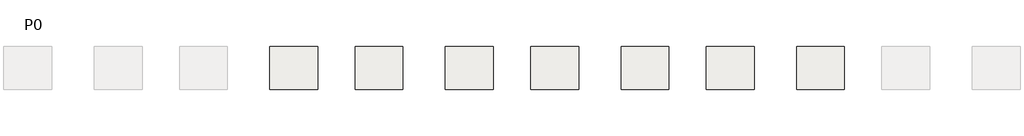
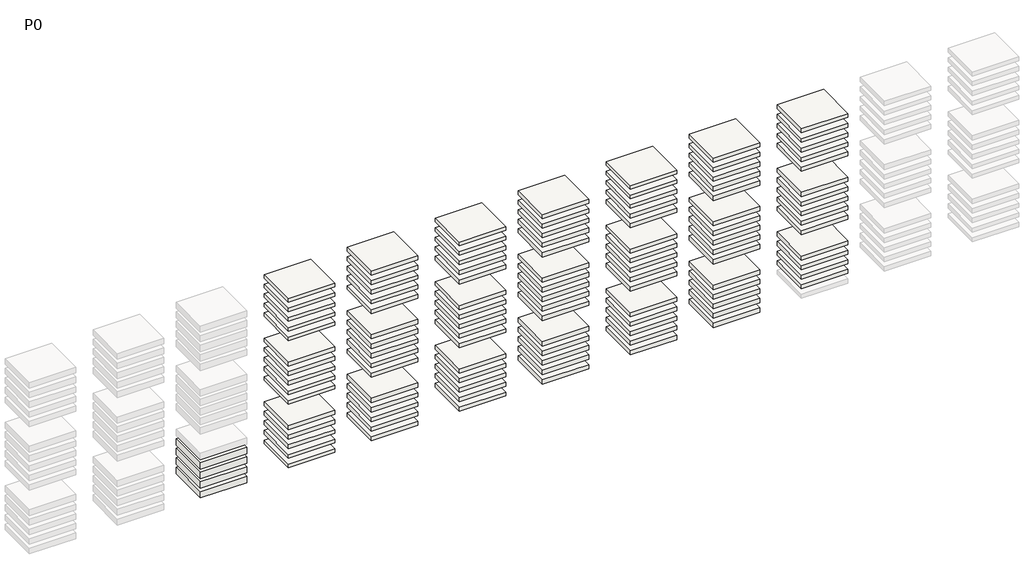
# One storey, part 3 of 11: 108 slabs.
"""IFC4 building model written with IfcOpenShell, lengths in millimetres."""

from ifc_helpers import new_model, si_unit, frame, origin, place, context, project, spatial, polyline, outline, extrude, element, save

model = new_model("IFC4")

# Units and contexts
model_context = context("Model", 3, world=origin())
ifc_project = project(units=[si_unit("LENGTHUNIT", "METRE", prefix="MILLI")], contexts=[model_context])

# Site, building, storey
site = spatial("IfcSite", under=ifc_project)
building = spatial("IfcBuilding", under=site)
storey = spatial("IfcBuildingStorey", under=building, Name="P0", Elevation=0.0)

# Slabs
placement = place(None, origin())
element("IfcSlab", 1, ObjectType="NNEH28 H10", at=placement, inside=storey, context=model_context, shape_type="SweptSolid", body=[
    extrude(outline(polyline([(25850.1564071, 1686.0689128), (25850.1564071, -1013.9310872), (22850.1564071, -1013.9310872), (22850.1564071, 1686.0689128), (25850.1564071, 1686.0689128)])), frame((0.0, 0.0, -16851.5322371), z_axis=(0.0, 0.0, 1.0), x_axis=(1.0, 0.0, 0.0)), (0.0, 0.0, 1.0), 438.0),
])
element("IfcSlab", 2, ObjectType="NNEH28 H10", at=placement, inside=storey, context=model_context, shape_type="SweptSolid", body=[
    extrude(outline(polyline([(25850.1564071, 1686.0689128), (25850.1564071, -1013.9310872), (22850.1564071, -1013.9310872), (22850.1564071, 1686.0689128), (25850.1564071, 1686.0689128)])), frame((0.0, 0.0, -17501.5322371), z_axis=(0.0, 0.0, 1.0), x_axis=(1.0, 0.0, 0.0)), (0.0, 0.0, 1.0), 438.0),
])
element("IfcSlab", 3, ObjectType="NNEH28 H10", at=placement, inside=storey, context=model_context, shape_type="SweptSolid", body=[
    extrude(outline(polyline([(25850.1564071, 1686.0689128), (25850.1564071, -1013.9310872), (22850.1564071, -1013.9310872), (22850.1564071, 1686.0689128), (25850.1564071, 1686.0689128)])), frame((0.0, 0.0, -18151.5322371), z_axis=(0.0, 0.0, 1.0), x_axis=(1.0, 0.0, 0.0)), (0.0, 0.0, 1.0), 438.0),
])
element("IfcSlab", 4, ObjectType="NNEH28 H10", at=placement, inside=storey, context=model_context, shape_type="SweptSolid", body=[
    extrude(outline(polyline([(25850.1564071, 1686.0689128), (25850.1564071, -1013.9310872), (22850.1564071, -1013.9310872), (22850.1564071, 1686.0689128), (25850.1564071, 1686.0689128)])), frame((0.0, 0.0, -18801.5322371), z_axis=(0.0, 0.0, 1.0), x_axis=(1.0, 0.0, 0.0)), (0.0, 0.0, 1.0), 438.0),
])
element("IfcSlab", 5, ObjectType="NNEH13 H5", at=placement, inside=storey, context=model_context, shape_type="SweptSolid", body=[
    extrude(outline(polyline([(31510.1564071, 1686.0689128), (31510.1564071, -1013.9310872), (28510.1564071, -1013.9310872), (28510.1564071, 1686.0689128), (31510.1564071, 1686.0689128)])), frame((0.0, 0.0, -7479.5323192), z_axis=(0.0, 0.0, 1.0), x_axis=(1.0, 0.0, 0.0)), (0.0, 0.0, 1.0), 238.0),
])
element("IfcSlab", 6, ObjectType="NNEH13 H5", at=placement, inside=storey, context=model_context, shape_type="SweptSolid", body=[
    extrude(outline(polyline([(31510.1564071, 1686.0689128), (31510.1564071, -1013.9310872), (28510.1564071, -1013.9310872), (28510.1564071, 1686.0689128), (31510.1564071, 1686.0689128)])), frame((0.0, 0.0, -8129.5322376), z_axis=(0.0, 0.0, 1.0), x_axis=(1.0, 0.0, 0.0)), (0.0, 0.0, 1.0), 238.0),
])
element("IfcSlab", 7, ObjectType="NNEH13 H5", at=placement, inside=storey, context=model_context, shape_type="SweptSolid", body=[
    extrude(outline(polyline([(31510.1564071, 1686.0689128), (31510.1564071, -1013.9310872), (28510.1564071, -1013.9310872), (28510.1564071, 1686.0689128), (31510.1564071, 1686.0689128)])), frame((0.0, 0.0, -8779.5322376), z_axis=(0.0, 0.0, 1.0), x_axis=(1.0, 0.0, 0.0)), (0.0, 0.0, 1.0), 238.0),
])
element("IfcSlab", 8, ObjectType="NNEH13 H5", at=placement, inside=storey, context=model_context, shape_type="SweptSolid", body=[
    extrude(outline(polyline([(31510.1564071, 1686.0689128), (31510.1564071, -1013.9310872), (28510.1564071, -1013.9310872), (28510.1564071, 1686.0689128), (31510.1564071, 1686.0689128)])), frame((0.0, 0.0, -9429.5322376), z_axis=(0.0, 0.0, 1.0), x_axis=(1.0, 0.0, 0.0)), (0.0, 0.0, 1.0), 238.0),
])
element("IfcSlab", 9, ObjectType="NNEH13 H5", at=placement, inside=storey, context=model_context, shape_type="SweptSolid", body=[
    extrude(outline(polyline([(31510.1564071, 1686.0689128), (31510.1564071, -1013.9310872), (28510.1564071, -1013.9310872), (28510.1564071, 1686.0689128), (31510.1564071, 1686.0689128)])), frame((0.0, 0.0, -10079.5323192), z_axis=(0.0, 0.0, 1.0), x_axis=(1.0, 0.0, 0.0)), (0.0, 0.0, 1.0), 238.0),
])
element("IfcSlab", 10, ObjectType="NNEH13 H6", at=placement, inside=storey, context=model_context, shape_type="SweptSolid", body=[
    extrude(outline(polyline([(31510.1564071, 1686.0689128), (31510.1564071, -1013.9310872), (28510.1564071, -1013.9310872), (28510.1564071, 1686.0689128), (31510.1564071, 1686.0689128)])), frame((0.0, 0.0, -11809.532156), z_axis=(0.0, 0.0, 1.0), x_axis=(1.0, 0.0, 0.0)), (0.0, 0.0, 1.0), 248.0),
])
element("IfcSlab", 11, ObjectType="NNEH13 H6", at=placement, inside=storey, context=model_context, shape_type="SweptSolid", body=[
    extrude(outline(polyline([(31510.1564071, 1686.0689128), (31510.1564071, -1013.9310872), (28510.1564071, -1013.9310872), (28510.1564071, 1686.0689128), (31510.1564071, 1686.0689128)])), frame((0.0, 0.0, -12459.532156), z_axis=(0.0, 0.0, 1.0), x_axis=(1.0, 0.0, 0.0)), (0.0, 0.0, 1.0), 248.0),
])
element("IfcSlab", 12, ObjectType="NNEH13 H6", at=placement, inside=storey, context=model_context, shape_type="SweptSolid", body=[
    extrude(outline(polyline([(31510.1564071, 1686.0689128), (31510.1564071, -1013.9310872), (28510.1564071, -1013.9310872), (28510.1564071, 1686.0689128), (31510.1564071, 1686.0689128)])), frame((0.0, 0.0, -13109.532156), z_axis=(0.0, 0.0, 1.0), x_axis=(1.0, 0.0, 0.0)), (0.0, 0.0, 1.0), 248.0),
])
element("IfcSlab", 13, ObjectType="NNEH13 H6", at=placement, inside=storey, context=model_context, shape_type="SweptSolid", body=[
    extrude(outline(polyline([(31510.1564071, 1686.0689128), (31510.1564071, -1013.9310872), (28510.1564071, -1013.9310872), (28510.1564071, 1686.0689128), (31510.1564071, 1686.0689128)])), frame((0.0, 0.0, -13759.532156), z_axis=(0.0, 0.0, 1.0), x_axis=(1.0, 0.0, 0.0)), (0.0, 0.0, 1.0), 248.0),
])
element("IfcSlab", 14, ObjectType="NNEH13 H6", at=placement, inside=storey, context=model_context, shape_type="SweptSolid", body=[
    extrude(outline(polyline([(31510.1564071, 1686.0689128), (31510.1564071, -1013.9310872), (28510.1564071, -1013.9310872), (28510.1564071, 1686.0689128), (31510.1564071, 1686.0689128)])), frame((0.0, 0.0, -14409.532156), z_axis=(0.0, 0.0, 1.0), x_axis=(1.0, 0.0, 0.0)), (0.0, 0.0, 1.0), 248.0),
])
element("IfcSlab", 15, ObjectType="NNEH13 H7", at=placement, inside=storey, context=model_context, shape_type="SweptSolid", body=[
    extrude(outline(polyline([(31510.1564071, 1686.0689128), (31510.1564071, -1013.9310872), (28510.1564071, -1013.9310872), (28510.1564071, 1686.0689128), (31510.1564071, 1686.0689128)])), frame((0.0, 0.0, -16139.5322376), z_axis=(0.0, 0.0, 1.0), x_axis=(1.0, 0.0, 0.0)), (0.0, 0.0, 1.0), 258.0),
])
element("IfcSlab", 16, ObjectType="NNEH13 H7", at=placement, inside=storey, context=model_context, shape_type="SweptSolid", body=[
    extrude(outline(polyline([(31510.1564071, 1686.0689128), (31510.1564071, -1013.9310872), (28510.1564071, -1013.9310872), (28510.1564071, 1686.0689128), (31510.1564071, 1686.0689128)])), frame((0.0, 0.0, -16789.5322376), z_axis=(0.0, 0.0, 1.0), x_axis=(1.0, 0.0, 0.0)), (0.0, 0.0, 1.0), 258.0),
])
element("IfcSlab", 17, ObjectType="NNEH13 H7", at=placement, inside=storey, context=model_context, shape_type="SweptSolid", body=[
    extrude(outline(polyline([(31510.1564071, 1686.0689128), (31510.1564071, -1013.9310872), (28510.1564071, -1013.9310872), (28510.1564071, 1686.0689128), (31510.1564071, 1686.0689128)])), frame((0.0, 0.0, -17439.5322376), z_axis=(0.0, 0.0, 1.0), x_axis=(1.0, 0.0, 0.0)), (0.0, 0.0, 1.0), 258.0),
])
element("IfcSlab", 18, ObjectType="NNEH13 H7", at=placement, inside=storey, context=model_context, shape_type="SweptSolid", body=[
    extrude(outline(polyline([(31510.1564071, 1686.0689128), (31510.1564071, -1013.9310872), (28510.1564071, -1013.9310872), (28510.1564071, 1686.0689128), (31510.1564071, 1686.0689128)])), frame((0.0, 0.0, -18089.5322376), z_axis=(0.0, 0.0, 1.0), x_axis=(1.0, 0.0, 0.0)), (0.0, 0.0, 1.0), 258.0),
])
element("IfcSlab", 19, ObjectType="NNEH13 H7", at=placement, inside=storey, context=model_context, shape_type="SweptSolid", body=[
    extrude(outline(polyline([(31510.1564071, 1686.0689128), (31510.1564071, -1013.9310872), (28510.1564071, -1013.9310872), (28510.1564071, 1686.0689128), (31510.1564071, 1686.0689128)])), frame((0.0, 0.0, -18739.5322376), z_axis=(0.0, 0.0, 1.0), x_axis=(1.0, 0.0, 0.0)), (0.0, 0.0, 1.0), 258.0),
])
element("IfcSlab", 20, ObjectType="NNEH13 H8", at=placement, inside=storey, context=model_context, shape_type="SweptSolid", body=[
    extrude(outline(polyline([(36850.1564071, 1686.0689128), (36850.1564071, -1013.9310872), (33850.1564071, -1013.9310872), (33850.1564071, 1686.0689128), (36850.1564071, 1686.0689128)])), frame((0.0, 0.0, -7509.5322376), z_axis=(0.0, 0.0, 1.0), x_axis=(1.0, 0.0, 0.0)), (0.0, 0.0, 1.0), 268.0),
])
element("IfcSlab", 21, ObjectType="NNEH13 H8", at=placement, inside=storey, context=model_context, shape_type="SweptSolid", body=[
    extrude(outline(polyline([(36850.1564071, 1686.0689128), (36850.1564071, -1013.9310872), (33850.1564071, -1013.9310872), (33850.1564071, 1686.0689128), (36850.1564071, 1686.0689128)])), frame((0.0, 0.0, -8159.5322376), z_axis=(0.0, 0.0, 1.0), x_axis=(1.0, 0.0, 0.0)), (0.0, 0.0, 1.0), 268.0),
])
element("IfcSlab", 22, ObjectType="NNEH13 H8", at=placement, inside=storey, context=model_context, shape_type="SweptSolid", body=[
    extrude(outline(polyline([(36850.1564071, 1686.0689128), (36850.1564071, -1013.9310872), (33850.1564071, -1013.9310872), (33850.1564071, 1686.0689128), (36850.1564071, 1686.0689128)])), frame((0.0, 0.0, -8809.5322376), z_axis=(0.0, 0.0, 1.0), x_axis=(1.0, 0.0, 0.0)), (0.0, 0.0, 1.0), 268.0),
])
element("IfcSlab", 23, ObjectType="NNEH13 H8", at=placement, inside=storey, context=model_context, shape_type="SweptSolid", body=[
    extrude(outline(polyline([(36850.1564071, 1686.0689128), (36850.1564071, -1013.9310872), (33850.1564071, -1013.9310872), (33850.1564071, 1686.0689128), (36850.1564071, 1686.0689128)])), frame((0.0, 0.0, -9459.5322376), z_axis=(0.0, 0.0, 1.0), x_axis=(1.0, 0.0, 0.0)), (0.0, 0.0, 1.0), 268.0),
])
element("IfcSlab", 24, ObjectType="NNEH13 H8", at=placement, inside=storey, context=model_context, shape_type="SweptSolid", body=[
    extrude(outline(polyline([(36850.1564071, 1686.0689128), (36850.1564071, -1013.9310872), (33850.1564071, -1013.9310872), (33850.1564071, 1686.0689128), (36850.1564071, 1686.0689128)])), frame((0.0, 0.0, -10109.5323192), z_axis=(0.0, 0.0, 1.0), x_axis=(1.0, 0.0, 0.0)), (0.0, 0.0, 1.0), 268.0),
])
element("IfcSlab", 25, ObjectType="NNEH13 H9", at=placement, inside=storey, context=model_context, shape_type="SweptSolid", body=[
    extrude(outline(polyline([(36850.1564071, 1686.0689128), (36850.1564071, -1013.9310872), (33850.1564071, -1013.9310872), (33850.1564071, 1686.0689128), (36850.1564071, 1686.0689128)])), frame((0.0, 0.0, -11839.532156), z_axis=(0.0, 0.0, 1.0), x_axis=(1.0, 0.0, 0.0)), (0.0, 0.0, 1.0), 278.0),
])
element("IfcSlab", 26, ObjectType="NNEH13 H9", at=placement, inside=storey, context=model_context, shape_type="SweptSolid", body=[
    extrude(outline(polyline([(36850.1564071, 1686.0689128), (36850.1564071, -1013.9310872), (33850.1564071, -1013.9310872), (33850.1564071, 1686.0689128), (36850.1564071, 1686.0689128)])), frame((0.0, 0.0, -12489.532156), z_axis=(0.0, 0.0, 1.0), x_axis=(1.0, 0.0, 0.0)), (0.0, 0.0, 1.0), 278.0),
])
element("IfcSlab", 27, ObjectType="NNEH13 H9", at=placement, inside=storey, context=model_context, shape_type="SweptSolid", body=[
    extrude(outline(polyline([(36850.1564071, 1686.0689128), (36850.1564071, -1013.9310872), (33850.1564071, -1013.9310872), (33850.1564071, 1686.0689128), (36850.1564071, 1686.0689128)])), frame((0.0, 0.0, -13139.532156), z_axis=(0.0, 0.0, 1.0), x_axis=(1.0, 0.0, 0.0)), (0.0, 0.0, 1.0), 278.0),
])
element("IfcSlab", 28, ObjectType="NNEH13 H9", at=placement, inside=storey, context=model_context, shape_type="SweptSolid", body=[
    extrude(outline(polyline([(36850.1564071, 1686.0689128), (36850.1564071, -1013.9310872), (33850.1564071, -1013.9310872), (33850.1564071, 1686.0689128), (36850.1564071, 1686.0689128)])), frame((0.0, 0.0, -13789.532156), z_axis=(0.0, 0.0, 1.0), x_axis=(1.0, 0.0, 0.0)), (0.0, 0.0, 1.0), 278.0),
])
element("IfcSlab", 29, ObjectType="NNEH13 H9", at=placement, inside=storey, context=model_context, shape_type="SweptSolid", body=[
    extrude(outline(polyline([(36850.1564071, 1686.0689128), (36850.1564071, -1013.9310872), (33850.1564071, -1013.9310872), (33850.1564071, 1686.0689128), (36850.1564071, 1686.0689128)])), frame((0.0, 0.0, -14439.532156), z_axis=(0.0, 0.0, 1.0), x_axis=(1.0, 0.0, 0.0)), (0.0, 0.0, 1.0), 278.0),
])
element("IfcSlab", 30, ObjectType="NNEH13 H10", at=placement, inside=storey, context=model_context, shape_type="SweptSolid", body=[
    extrude(outline(polyline([(36850.1564071, 1686.0689128), (36850.1564071, -1013.9310872), (33850.1564071, -1013.9310872), (33850.1564071, 1686.0689128), (36850.1564071, 1686.0689128)])), frame((0.0, 0.0, -16169.5322376), z_axis=(0.0, 0.0, 1.0), x_axis=(1.0, 0.0, 0.0)), (0.0, 0.0, 1.0), 288.0),
])
element("IfcSlab", 31, ObjectType="NNEH13 H10", at=placement, inside=storey, context=model_context, shape_type="SweptSolid", body=[
    extrude(outline(polyline([(36850.1564071, 1686.0689128), (36850.1564071, -1013.9310872), (33850.1564071, -1013.9310872), (33850.1564071, 1686.0689128), (36850.1564071, 1686.0689128)])), frame((0.0, 0.0, -16819.5322376), z_axis=(0.0, 0.0, 1.0), x_axis=(1.0, 0.0, 0.0)), (0.0, 0.0, 1.0), 288.0),
])
element("IfcSlab", 32, ObjectType="NNEH13 H10", at=placement, inside=storey, context=model_context, shape_type="SweptSolid", body=[
    extrude(outline(polyline([(36850.1564071, 1686.0689128), (36850.1564071, -1013.9310872), (33850.1564071, -1013.9310872), (33850.1564071, 1686.0689128), (36850.1564071, 1686.0689128)])), frame((0.0, 0.0, -17469.5322376), z_axis=(0.0, 0.0, 1.0), x_axis=(1.0, 0.0, 0.0)), (0.0, 0.0, 1.0), 288.0),
])
element("IfcSlab", 33, ObjectType="NNEH13 H10", at=placement, inside=storey, context=model_context, shape_type="SweptSolid", body=[
    extrude(outline(polyline([(36850.1564071, 1686.0689128), (36850.1564071, -1013.9310872), (33850.1564071, -1013.9310872), (33850.1564071, 1686.0689128), (36850.1564071, 1686.0689128)])), frame((0.0, 0.0, -18119.5322376), z_axis=(0.0, 0.0, 1.0), x_axis=(1.0, 0.0, 0.0)), (0.0, 0.0, 1.0), 288.0),
])
element("IfcSlab", 34, ObjectType="NNEH13 H10", at=placement, inside=storey, context=model_context, shape_type="SweptSolid", body=[
    extrude(outline(polyline([(36850.1564071, 1686.0689128), (36850.1564071, -1013.9310872), (33850.1564071, -1013.9310872), (33850.1564071, 1686.0689128), (36850.1564071, 1686.0689128)])), frame((0.0, 0.0, -18769.5322376), z_axis=(0.0, 0.0, 1.0), x_axis=(1.0, 0.0, 0.0)), (0.0, 0.0, 1.0), 288.0),
])
element("IfcSlab", 35, ObjectType="NNEH14 H5", at=placement, inside=storey, context=model_context, shape_type="SweptSolid", body=[
    extrude(outline(polyline([(42510.1564071, 1686.0689128), (42510.1564071, -1013.9310872), (39510.1564071, -1013.9310872), (39510.1564071, 1686.0689128), (42510.1564071, 1686.0689128)])), frame((0.0, 0.0, -7489.5323192), z_axis=(0.0, 0.0, 1.0), x_axis=(1.0, 0.0, 0.0)), (0.0, 0.0, 1.0), 248.0),
])
element("IfcSlab", 36, ObjectType="NNEH14 H5", at=placement, inside=storey, context=model_context, shape_type="SweptSolid", body=[
    extrude(outline(polyline([(42510.1564071, 1686.0689128), (42510.1564071, -1013.9310872), (39510.1564071, -1013.9310872), (39510.1564071, 1686.0689128), (42510.1564071, 1686.0689128)])), frame((0.0, 0.0, -8139.5322376), z_axis=(0.0, 0.0, 1.0), x_axis=(1.0, 0.0, 0.0)), (0.0, 0.0, 1.0), 248.0),
])
element("IfcSlab", 37, ObjectType="NNEH14 H5", at=placement, inside=storey, context=model_context, shape_type="SweptSolid", body=[
    extrude(outline(polyline([(42510.1564071, 1686.0689128), (42510.1564071, -1013.9310872), (39510.1564071, -1013.9310872), (39510.1564071, 1686.0689128), (42510.1564071, 1686.0689128)])), frame((0.0, 0.0, -8789.5322376), z_axis=(0.0, 0.0, 1.0), x_axis=(1.0, 0.0, 0.0)), (0.0, 0.0, 1.0), 248.0),
])
element("IfcSlab", 38, ObjectType="NNEH14 H5", at=placement, inside=storey, context=model_context, shape_type="SweptSolid", body=[
    extrude(outline(polyline([(42510.1564071, 1686.0689128), (42510.1564071, -1013.9310872), (39510.1564071, -1013.9310872), (39510.1564071, 1686.0689128), (42510.1564071, 1686.0689128)])), frame((0.0, 0.0, -9439.5322376), z_axis=(0.0, 0.0, 1.0), x_axis=(1.0, 0.0, 0.0)), (0.0, 0.0, 1.0), 248.0),
])
element("IfcSlab", 39, ObjectType="NNEH14 H5", at=placement, inside=storey, context=model_context, shape_type="SweptSolid", body=[
    extrude(outline(polyline([(42510.1564071, 1686.0689128), (42510.1564071, -1013.9310872), (39510.1564071, -1013.9310872), (39510.1564071, 1686.0689128), (42510.1564071, 1686.0689128)])), frame((0.0, 0.0, -10089.5323192), z_axis=(0.0, 0.0, 1.0), x_axis=(1.0, 0.0, 0.0)), (0.0, 0.0, 1.0), 248.0),
])
element("IfcSlab", 40, ObjectType="NNEH14 H6", at=placement, inside=storey, context=model_context, shape_type="SweptSolid", body=[
    extrude(outline(polyline([(42510.1564071, 1686.0689128), (42510.1564071, -1013.9310872), (39510.1564071, -1013.9310872), (39510.1564071, 1686.0689128), (42510.1564071, 1686.0689128)])), frame((0.0, 0.0, -11819.532156), z_axis=(0.0, 0.0, 1.0), x_axis=(1.0, 0.0, 0.0)), (0.0, 0.0, 1.0), 258.0),
])
element("IfcSlab", 41, ObjectType="NNEH14 H6", at=placement, inside=storey, context=model_context, shape_type="SweptSolid", body=[
    extrude(outline(polyline([(42510.1564071, 1686.0689128), (42510.1564071, -1013.9310872), (39510.1564071, -1013.9310872), (39510.1564071, 1686.0689128), (42510.1564071, 1686.0689128)])), frame((0.0, 0.0, -12469.532156), z_axis=(0.0, 0.0, 1.0), x_axis=(1.0, 0.0, 0.0)), (0.0, 0.0, 1.0), 258.0),
])
element("IfcSlab", 42, ObjectType="NNEH14 H6", at=placement, inside=storey, context=model_context, shape_type="SweptSolid", body=[
    extrude(outline(polyline([(42510.1564071, 1686.0689128), (42510.1564071, -1013.9310872), (39510.1564071, -1013.9310872), (39510.1564071, 1686.0689128), (42510.1564071, 1686.0689128)])), frame((0.0, 0.0, -13119.532156), z_axis=(0.0, 0.0, 1.0), x_axis=(1.0, 0.0, 0.0)), (0.0, 0.0, 1.0), 258.0),
])
element("IfcSlab", 43, ObjectType="NNEH14 H6", at=placement, inside=storey, context=model_context, shape_type="SweptSolid", body=[
    extrude(outline(polyline([(42510.1564071, 1686.0689128), (42510.1564071, -1013.9310872), (39510.1564071, -1013.9310872), (39510.1564071, 1686.0689128), (42510.1564071, 1686.0689128)])), frame((0.0, 0.0, -13769.532156), z_axis=(0.0, 0.0, 1.0), x_axis=(1.0, 0.0, 0.0)), (0.0, 0.0, 1.0), 258.0),
])
element("IfcSlab", 44, ObjectType="NNEH14 H6", at=placement, inside=storey, context=model_context, shape_type="SweptSolid", body=[
    extrude(outline(polyline([(42510.1564071, 1686.0689128), (42510.1564071, -1013.9310872), (39510.1564071, -1013.9310872), (39510.1564071, 1686.0689128), (42510.1564071, 1686.0689128)])), frame((0.0, 0.0, -14419.532156), z_axis=(0.0, 0.0, 1.0), x_axis=(1.0, 0.0, 0.0)), (0.0, 0.0, 1.0), 258.0),
])
element("IfcSlab", 45, ObjectType="NNEH14 H7", at=placement, inside=storey, context=model_context, shape_type="SweptSolid", body=[
    extrude(outline(polyline([(42510.1564071, 1686.0689128), (42510.1564071, -1013.9310872), (39510.1564071, -1013.9310872), (39510.1564071, 1686.0689128), (42510.1564071, 1686.0689128)])), frame((0.0, 0.0, -16149.5322376), z_axis=(0.0, 0.0, 1.0), x_axis=(1.0, 0.0, 0.0)), (0.0, 0.0, 1.0), 268.0),
])
element("IfcSlab", 46, ObjectType="NNEH14 H7", at=placement, inside=storey, context=model_context, shape_type="SweptSolid", body=[
    extrude(outline(polyline([(42510.1564071, 1686.0689128), (42510.1564071, -1013.9310872), (39510.1564071, -1013.9310872), (39510.1564071, 1686.0689128), (42510.1564071, 1686.0689128)])), frame((0.0, 0.0, -16799.5322376), z_axis=(0.0, 0.0, 1.0), x_axis=(1.0, 0.0, 0.0)), (0.0, 0.0, 1.0), 268.0),
])
element("IfcSlab", 47, ObjectType="NNEH14 H7", at=placement, inside=storey, context=model_context, shape_type="SweptSolid", body=[
    extrude(outline(polyline([(42510.1564071, 1686.0689128), (42510.1564071, -1013.9310872), (39510.1564071, -1013.9310872), (39510.1564071, 1686.0689128), (42510.1564071, 1686.0689128)])), frame((0.0, 0.0, -17449.5322376), z_axis=(0.0, 0.0, 1.0), x_axis=(1.0, 0.0, 0.0)), (0.0, 0.0, 1.0), 268.0),
])
element("IfcSlab", 48, ObjectType="NNEH14 H7", at=placement, inside=storey, context=model_context, shape_type="SweptSolid", body=[
    extrude(outline(polyline([(42510.1564071, 1686.0689128), (42510.1564071, -1013.9310872), (39510.1564071, -1013.9310872), (39510.1564071, 1686.0689128), (42510.1564071, 1686.0689128)])), frame((0.0, 0.0, -18099.5322376), z_axis=(0.0, 0.0, 1.0), x_axis=(1.0, 0.0, 0.0)), (0.0, 0.0, 1.0), 268.0),
])
element("IfcSlab", 49, ObjectType="NNEH14 H7", at=placement, inside=storey, context=model_context, shape_type="SweptSolid", body=[
    extrude(outline(polyline([(42510.1564071, 1686.0689128), (42510.1564071, -1013.9310872), (39510.1564071, -1013.9310872), (39510.1564071, 1686.0689128), (42510.1564071, 1686.0689128)])), frame((0.0, 0.0, -18749.5322376), z_axis=(0.0, 0.0, 1.0), x_axis=(1.0, 0.0, 0.0)), (0.0, 0.0, 1.0), 268.0),
])
element("IfcSlab", 50, ObjectType="NNEH14 H8", at=placement, inside=storey, context=model_context, shape_type="SweptSolid", body=[
    extrude(outline(polyline([(47850.1564071, 1686.0689128), (47850.1564071, -1013.9310872), (44850.1564071, -1013.9310872), (44850.1564071, 1686.0689128), (47850.1564071, 1686.0689128)])), frame((0.0, 0.0, -7519.5322376), z_axis=(0.0, 0.0, 1.0), x_axis=(1.0, 0.0, 0.0)), (0.0, 0.0, 1.0), 278.0),
])
element("IfcSlab", 51, ObjectType="NNEH14 H8", at=placement, inside=storey, context=model_context, shape_type="SweptSolid", body=[
    extrude(outline(polyline([(47850.1564071, 1686.0689128), (47850.1564071, -1013.9310872), (44850.1564071, -1013.9310872), (44850.1564071, 1686.0689128), (47850.1564071, 1686.0689128)])), frame((0.0, 0.0, -8169.5322376), z_axis=(0.0, 0.0, 1.0), x_axis=(1.0, 0.0, 0.0)), (0.0, 0.0, 1.0), 278.0),
])
element("IfcSlab", 52, ObjectType="NNEH14 H8", at=placement, inside=storey, context=model_context, shape_type="SweptSolid", body=[
    extrude(outline(polyline([(47850.1564071, 1686.0689128), (47850.1564071, -1013.9310872), (44850.1564071, -1013.9310872), (44850.1564071, 1686.0689128), (47850.1564071, 1686.0689128)])), frame((0.0, 0.0, -8819.5322376), z_axis=(0.0, 0.0, 1.0), x_axis=(1.0, 0.0, 0.0)), (0.0, 0.0, 1.0), 278.0),
])
element("IfcSlab", 53, ObjectType="NNEH14 H8", at=placement, inside=storey, context=model_context, shape_type="SweptSolid", body=[
    extrude(outline(polyline([(47850.1564071, 1686.0689128), (47850.1564071, -1013.9310872), (44850.1564071, -1013.9310872), (44850.1564071, 1686.0689128), (47850.1564071, 1686.0689128)])), frame((0.0, 0.0, -9469.5322376), z_axis=(0.0, 0.0, 1.0), x_axis=(1.0, 0.0, 0.0)), (0.0, 0.0, 1.0), 278.0),
])
element("IfcSlab", 54, ObjectType="NNEH14 H8", at=placement, inside=storey, context=model_context, shape_type="SweptSolid", body=[
    extrude(outline(polyline([(47850.1564071, 1686.0689128), (47850.1564071, -1013.9310872), (44850.1564071, -1013.9310872), (44850.1564071, 1686.0689128), (47850.1564071, 1686.0689128)])), frame((0.0, 0.0, -10119.5323192), z_axis=(0.0, 0.0, 1.0), x_axis=(1.0, 0.0, 0.0)), (0.0, 0.0, 1.0), 278.0),
])
element("IfcSlab", 55, ObjectType="NNEH14 H9", at=placement, inside=storey, context=model_context, shape_type="SweptSolid", body=[
    extrude(outline(polyline([(47850.1564071, 1686.0689128), (47850.1564071, -1013.9310872), (44850.1564071, -1013.9310872), (44850.1564071, 1686.0689128), (47850.1564071, 1686.0689128)])), frame((0.0, 0.0, -11849.532156), z_axis=(0.0, 0.0, 1.0), x_axis=(1.0, 0.0, 0.0)), (0.0, 0.0, 1.0), 288.0),
])
element("IfcSlab", 56, ObjectType="NNEH14 H9", at=placement, inside=storey, context=model_context, shape_type="SweptSolid", body=[
    extrude(outline(polyline([(47850.1564071, 1686.0689128), (47850.1564071, -1013.9310872), (44850.1564071, -1013.9310872), (44850.1564071, 1686.0689128), (47850.1564071, 1686.0689128)])), frame((0.0, 0.0, -12499.532156), z_axis=(0.0, 0.0, 1.0), x_axis=(1.0, 0.0, 0.0)), (0.0, 0.0, 1.0), 288.0),
])
element("IfcSlab", 57, ObjectType="NNEH14 H9", at=placement, inside=storey, context=model_context, shape_type="SweptSolid", body=[
    extrude(outline(polyline([(47850.1564071, 1686.0689128), (47850.1564071, -1013.9310872), (44850.1564071, -1013.9310872), (44850.1564071, 1686.0689128), (47850.1564071, 1686.0689128)])), frame((0.0, 0.0, -13149.532156), z_axis=(0.0, 0.0, 1.0), x_axis=(1.0, 0.0, 0.0)), (0.0, 0.0, 1.0), 288.0),
])
element("IfcSlab", 58, ObjectType="NNEH14 H9", at=placement, inside=storey, context=model_context, shape_type="SweptSolid", body=[
    extrude(outline(polyline([(47850.1564071, 1686.0689128), (47850.1564071, -1013.9310872), (44850.1564071, -1013.9310872), (44850.1564071, 1686.0689128), (47850.1564071, 1686.0689128)])), frame((0.0, 0.0, -13799.532156), z_axis=(0.0, 0.0, 1.0), x_axis=(1.0, 0.0, 0.0)), (0.0, 0.0, 1.0), 288.0),
])
element("IfcSlab", 59, ObjectType="NNEH14 H9", at=placement, inside=storey, context=model_context, shape_type="SweptSolid", body=[
    extrude(outline(polyline([(47850.1564071, 1686.0689128), (47850.1564071, -1013.9310872), (44850.1564071, -1013.9310872), (44850.1564071, 1686.0689128), (47850.1564071, 1686.0689128)])), frame((0.0, 0.0, -14449.532156), z_axis=(0.0, 0.0, 1.0), x_axis=(1.0, 0.0, 0.0)), (0.0, 0.0, 1.0), 288.0),
])
element("IfcSlab", 60, ObjectType="NNEH14 H10", at=placement, inside=storey, context=model_context, shape_type="SweptSolid", body=[
    extrude(outline(polyline([(47850.1564071, 1686.0689128), (47850.1564071, -1013.9310872), (44850.1564071, -1013.9310872), (44850.1564071, 1686.0689128), (47850.1564071, 1686.0689128)])), frame((0.0, 0.0, -16179.5322376), z_axis=(0.0, 0.0, 1.0), x_axis=(1.0, 0.0, 0.0)), (0.0, 0.0, 1.0), 298.0),
])
element("IfcSlab", 61, ObjectType="NNEH14 H10", at=placement, inside=storey, context=model_context, shape_type="SweptSolid", body=[
    extrude(outline(polyline([(47850.1564071, 1686.0689128), (47850.1564071, -1013.9310872), (44850.1564071, -1013.9310872), (44850.1564071, 1686.0689128), (47850.1564071, 1686.0689128)])), frame((0.0, 0.0, -16829.5322376), z_axis=(0.0, 0.0, 1.0), x_axis=(1.0, 0.0, 0.0)), (0.0, 0.0, 1.0), 298.0),
])
element("IfcSlab", 62, ObjectType="NNEH14 H10", at=placement, inside=storey, context=model_context, shape_type="SweptSolid", body=[
    extrude(outline(polyline([(47850.1564071, 1686.0689128), (47850.1564071, -1013.9310872), (44850.1564071, -1013.9310872), (44850.1564071, 1686.0689128), (47850.1564071, 1686.0689128)])), frame((0.0, 0.0, -17479.5322376), z_axis=(0.0, 0.0, 1.0), x_axis=(1.0, 0.0, 0.0)), (0.0, 0.0, 1.0), 298.0),
])
element("IfcSlab", 63, ObjectType="NNEH14 H10", at=placement, inside=storey, context=model_context, shape_type="SweptSolid", body=[
    extrude(outline(polyline([(47850.1564071, 1686.0689128), (47850.1564071, -1013.9310872), (44850.1564071, -1013.9310872), (44850.1564071, 1686.0689128), (47850.1564071, 1686.0689128)])), frame((0.0, 0.0, -18129.5322376), z_axis=(0.0, 0.0, 1.0), x_axis=(1.0, 0.0, 0.0)), (0.0, 0.0, 1.0), 298.0),
])
element("IfcSlab", 64, ObjectType="NNEH14 H10", at=placement, inside=storey, context=model_context, shape_type="SweptSolid", body=[
    extrude(outline(polyline([(47850.1564071, 1686.0689128), (47850.1564071, -1013.9310872), (44850.1564071, -1013.9310872), (44850.1564071, 1686.0689128), (47850.1564071, 1686.0689128)])), frame((0.0, 0.0, -18779.5322376), z_axis=(0.0, 0.0, 1.0), x_axis=(1.0, 0.0, 0.0)), (0.0, 0.0, 1.0), 298.0),
])
element("IfcSlab", 65, ObjectType="NNEH15 H5", at=placement, inside=storey, context=model_context, shape_type="SweptSolid", body=[
    extrude(outline(polyline([(53510.1564071, 1686.0689128), (53510.1564071, -1013.9310872), (50510.1564071, -1013.9310872), (50510.1564071, 1686.0689128), (53510.1564071, 1686.0689128)])), frame((0.0, 0.0, -7499.5323192), z_axis=(0.0, 0.0, 1.0), x_axis=(1.0, 0.0, 0.0)), (0.0, 0.0, 1.0), 258.0),
])
element("IfcSlab", 66, ObjectType="NNEH15 H5", at=placement, inside=storey, context=model_context, shape_type="SweptSolid", body=[
    extrude(outline(polyline([(53510.1564071, 1686.0689128), (53510.1564071, -1013.9310872), (50510.1564071, -1013.9310872), (50510.1564071, 1686.0689128), (53510.1564071, 1686.0689128)])), frame((0.0, 0.0, -8149.5322376), z_axis=(0.0, 0.0, 1.0), x_axis=(1.0, 0.0, 0.0)), (0.0, 0.0, 1.0), 258.0),
])
element("IfcSlab", 67, ObjectType="NNEH15 H5", at=placement, inside=storey, context=model_context, shape_type="SweptSolid", body=[
    extrude(outline(polyline([(53510.1564071, 1686.0689128), (53510.1564071, -1013.9310872), (50510.1564071, -1013.9310872), (50510.1564071, 1686.0689128), (53510.1564071, 1686.0689128)])), frame((0.0, 0.0, -8799.5322376), z_axis=(0.0, 0.0, 1.0), x_axis=(1.0, 0.0, 0.0)), (0.0, 0.0, 1.0), 258.0),
])
element("IfcSlab", 68, ObjectType="NNEH15 H5", at=placement, inside=storey, context=model_context, shape_type="SweptSolid", body=[
    extrude(outline(polyline([(53510.1564071, 1686.0689128), (53510.1564071, -1013.9310872), (50510.1564071, -1013.9310872), (50510.1564071, 1686.0689128), (53510.1564071, 1686.0689128)])), frame((0.0, 0.0, -9449.5322376), z_axis=(0.0, 0.0, 1.0), x_axis=(1.0, 0.0, 0.0)), (0.0, 0.0, 1.0), 258.0),
])
element("IfcSlab", 69, ObjectType="NNEH15 H5", at=placement, inside=storey, context=model_context, shape_type="SweptSolid", body=[
    extrude(outline(polyline([(53510.1564071, 1686.0689128), (53510.1564071, -1013.9310872), (50510.1564071, -1013.9310872), (50510.1564071, 1686.0689128), (53510.1564071, 1686.0689128)])), frame((0.0, 0.0, -10099.5323192), z_axis=(0.0, 0.0, 1.0), x_axis=(1.0, 0.0, 0.0)), (0.0, 0.0, 1.0), 258.0),
])
element("IfcSlab", 70, ObjectType="NNEH15 H6", at=placement, inside=storey, context=model_context, shape_type="SweptSolid", body=[
    extrude(outline(polyline([(53510.1564071, 1686.0689128), (53510.1564071, -1013.9310872), (50510.1564071, -1013.9310872), (50510.1564071, 1686.0689128), (53510.1564071, 1686.0689128)])), frame((0.0, 0.0, -11829.532156), z_axis=(0.0, 0.0, 1.0), x_axis=(1.0, 0.0, 0.0)), (0.0, 0.0, 1.0), 268.0),
])
element("IfcSlab", 71, ObjectType="NNEH15 H6", at=placement, inside=storey, context=model_context, shape_type="SweptSolid", body=[
    extrude(outline(polyline([(53510.1564071, 1686.0689128), (53510.1564071, -1013.9310872), (50510.1564071, -1013.9310872), (50510.1564071, 1686.0689128), (53510.1564071, 1686.0689128)])), frame((0.0, 0.0, -12479.532156), z_axis=(0.0, 0.0, 1.0), x_axis=(1.0, 0.0, 0.0)), (0.0, 0.0, 1.0), 268.0),
])
element("IfcSlab", 72, ObjectType="NNEH15 H6", at=placement, inside=storey, context=model_context, shape_type="SweptSolid", body=[
    extrude(outline(polyline([(53510.1564071, 1686.0689128), (53510.1564071, -1013.9310872), (50510.1564071, -1013.9310872), (50510.1564071, 1686.0689128), (53510.1564071, 1686.0689128)])), frame((0.0, 0.0, -13129.532156), z_axis=(0.0, 0.0, 1.0), x_axis=(1.0, 0.0, 0.0)), (0.0, 0.0, 1.0), 268.0),
])
element("IfcSlab", 73, ObjectType="NNEH15 H6", at=placement, inside=storey, context=model_context, shape_type="SweptSolid", body=[
    extrude(outline(polyline([(53510.1564071, 1686.0689128), (53510.1564071, -1013.9310872), (50510.1564071, -1013.9310872), (50510.1564071, 1686.0689128), (53510.1564071, 1686.0689128)])), frame((0.0, 0.0, -13779.532156), z_axis=(0.0, 0.0, 1.0), x_axis=(1.0, 0.0, 0.0)), (0.0, 0.0, 1.0), 268.0),
])
element("IfcSlab", 74, ObjectType="NNEH15 H6", at=placement, inside=storey, context=model_context, shape_type="SweptSolid", body=[
    extrude(outline(polyline([(53510.1564071, 1686.0689128), (53510.1564071, -1013.9310872), (50510.1564071, -1013.9310872), (50510.1564071, 1686.0689128), (53510.1564071, 1686.0689128)])), frame((0.0, 0.0, -14429.532156), z_axis=(0.0, 0.0, 1.0), x_axis=(1.0, 0.0, 0.0)), (0.0, 0.0, 1.0), 268.0),
])
element("IfcSlab", 75, ObjectType="NNEH15 H7", at=placement, inside=storey, context=model_context, shape_type="SweptSolid", body=[
    extrude(outline(polyline([(53510.1564071, 1686.0689128), (53510.1564071, -1013.9310872), (50510.1564071, -1013.9310872), (50510.1564071, 1686.0689128), (53510.1564071, 1686.0689128)])), frame((0.0, 0.0, -16159.5322376), z_axis=(0.0, 0.0, 1.0), x_axis=(1.0, 0.0, 0.0)), (0.0, 0.0, 1.0), 278.0),
])
element("IfcSlab", 76, ObjectType="NNEH15 H7", at=placement, inside=storey, context=model_context, shape_type="SweptSolid", body=[
    extrude(outline(polyline([(53510.1564071, 1686.0689128), (53510.1564071, -1013.9310872), (50510.1564071, -1013.9310872), (50510.1564071, 1686.0689128), (53510.1564071, 1686.0689128)])), frame((0.0, 0.0, -16809.5322376), z_axis=(0.0, 0.0, 1.0), x_axis=(1.0, 0.0, 0.0)), (0.0, 0.0, 1.0), 278.0),
])
element("IfcSlab", 77, ObjectType="NNEH15 H7", at=placement, inside=storey, context=model_context, shape_type="SweptSolid", body=[
    extrude(outline(polyline([(53510.1564071, 1686.0689128), (53510.1564071, -1013.9310872), (50510.1564071, -1013.9310872), (50510.1564071, 1686.0689128), (53510.1564071, 1686.0689128)])), frame((0.0, 0.0, -17459.5322376), z_axis=(0.0, 0.0, 1.0), x_axis=(1.0, 0.0, 0.0)), (0.0, 0.0, 1.0), 278.0),
])
element("IfcSlab", 78, ObjectType="NNEH15 H7", at=placement, inside=storey, context=model_context, shape_type="SweptSolid", body=[
    extrude(outline(polyline([(53510.1564071, 1686.0689128), (53510.1564071, -1013.9310872), (50510.1564071, -1013.9310872), (50510.1564071, 1686.0689128), (53510.1564071, 1686.0689128)])), frame((0.0, 0.0, -18109.5322376), z_axis=(0.0, 0.0, 1.0), x_axis=(1.0, 0.0, 0.0)), (0.0, 0.0, 1.0), 278.0),
])
element("IfcSlab", 79, ObjectType="NNEH15 H7", at=placement, inside=storey, context=model_context, shape_type="SweptSolid", body=[
    extrude(outline(polyline([(53510.1564071, 1686.0689128), (53510.1564071, -1013.9310872), (50510.1564071, -1013.9310872), (50510.1564071, 1686.0689128), (53510.1564071, 1686.0689128)])), frame((0.0, 0.0, -18759.5322376), z_axis=(0.0, 0.0, 1.0), x_axis=(1.0, 0.0, 0.0)), (0.0, 0.0, 1.0), 278.0),
])
element("IfcSlab", 80, ObjectType="NNEH15 H8", at=placement, inside=storey, context=model_context, shape_type="SweptSolid", body=[
    extrude(outline(polyline([(58850.1564071, 1686.0689128), (58850.1564071, -1013.9310872), (55850.1564071, -1013.9310872), (55850.1564071, 1686.0689128), (58850.1564071, 1686.0689128)])), frame((0.0, 0.0, -7529.5322376), z_axis=(0.0, 0.0, 1.0), x_axis=(1.0, 0.0, 0.0)), (0.0, 0.0, 1.0), 288.0),
])
element("IfcSlab", 81, ObjectType="NNEH15 H8", at=placement, inside=storey, context=model_context, shape_type="SweptSolid", body=[
    extrude(outline(polyline([(58850.1564071, 1686.0689128), (58850.1564071, -1013.9310872), (55850.1564071, -1013.9310872), (55850.1564071, 1686.0689128), (58850.1564071, 1686.0689128)])), frame((0.0, 0.0, -8179.5322376), z_axis=(0.0, 0.0, 1.0), x_axis=(1.0, 0.0, 0.0)), (0.0, 0.0, 1.0), 288.0),
])
element("IfcSlab", 82, ObjectType="NNEH15 H8", at=placement, inside=storey, context=model_context, shape_type="SweptSolid", body=[
    extrude(outline(polyline([(58850.1564071, 1686.0689128), (58850.1564071, -1013.9310872), (55850.1564071, -1013.9310872), (55850.1564071, 1686.0689128), (58850.1564071, 1686.0689128)])), frame((0.0, 0.0, -8829.5322376), z_axis=(0.0, 0.0, 1.0), x_axis=(1.0, 0.0, 0.0)), (0.0, 0.0, 1.0), 288.0),
])
element("IfcSlab", 83, ObjectType="NNEH15 H8", at=placement, inside=storey, context=model_context, shape_type="SweptSolid", body=[
    extrude(outline(polyline([(58850.1564071, 1686.0689128), (58850.1564071, -1013.9310872), (55850.1564071, -1013.9310872), (55850.1564071, 1686.0689128), (58850.1564071, 1686.0689128)])), frame((0.0, 0.0, -9479.5322376), z_axis=(0.0, 0.0, 1.0), x_axis=(1.0, 0.0, 0.0)), (0.0, 0.0, 1.0), 288.0),
])
element("IfcSlab", 84, ObjectType="NNEH15 H8", at=placement, inside=storey, context=model_context, shape_type="SweptSolid", body=[
    extrude(outline(polyline([(58850.1564071, 1686.0689128), (58850.1564071, -1013.9310872), (55850.1564071, -1013.9310872), (55850.1564071, 1686.0689128), (58850.1564071, 1686.0689128)])), frame((0.0, 0.0, -10129.5323192), z_axis=(0.0, 0.0, 1.0), x_axis=(1.0, 0.0, 0.0)), (0.0, 0.0, 1.0), 288.0),
])
element("IfcSlab", 85, ObjectType="NNEH15 H9", at=placement, inside=storey, context=model_context, shape_type="SweptSolid", body=[
    extrude(outline(polyline([(58850.1564071, 1686.0689128), (58850.1564071, -1013.9310872), (55850.1564071, -1013.9310872), (55850.1564071, 1686.0689128), (58850.1564071, 1686.0689128)])), frame((0.0, 0.0, -11859.532156), z_axis=(0.0, 0.0, 1.0), x_axis=(1.0, 0.0, 0.0)), (0.0, 0.0, 1.0), 298.0),
])
element("IfcSlab", 86, ObjectType="NNEH15 H9", at=placement, inside=storey, context=model_context, shape_type="SweptSolid", body=[
    extrude(outline(polyline([(58850.1564071, 1686.0689128), (58850.1564071, -1013.9310872), (55850.1564071, -1013.9310872), (55850.1564071, 1686.0689128), (58850.1564071, 1686.0689128)])), frame((0.0, 0.0, -12509.532156), z_axis=(0.0, 0.0, 1.0), x_axis=(1.0, 0.0, 0.0)), (0.0, 0.0, 1.0), 298.0),
])
element("IfcSlab", 87, ObjectType="NNEH15 H9", at=placement, inside=storey, context=model_context, shape_type="SweptSolid", body=[
    extrude(outline(polyline([(58850.1564071, 1686.0689128), (58850.1564071, -1013.9310872), (55850.1564071, -1013.9310872), (55850.1564071, 1686.0689128), (58850.1564071, 1686.0689128)])), frame((0.0, 0.0, -13159.532156), z_axis=(0.0, 0.0, 1.0), x_axis=(1.0, 0.0, 0.0)), (0.0, 0.0, 1.0), 298.0),
])
element("IfcSlab", 88, ObjectType="NNEH15 H9", at=placement, inside=storey, context=model_context, shape_type="SweptSolid", body=[
    extrude(outline(polyline([(58850.1564071, 1686.0689128), (58850.1564071, -1013.9310872), (55850.1564071, -1013.9310872), (55850.1564071, 1686.0689128), (58850.1564071, 1686.0689128)])), frame((0.0, 0.0, -13809.532156), z_axis=(0.0, 0.0, 1.0), x_axis=(1.0, 0.0, 0.0)), (0.0, 0.0, 1.0), 298.0),
])
element("IfcSlab", 89, ObjectType="NNEH15 H9", at=placement, inside=storey, context=model_context, shape_type="SweptSolid", body=[
    extrude(outline(polyline([(58850.1564071, 1686.0689128), (58850.1564071, -1013.9310872), (55850.1564071, -1013.9310872), (55850.1564071, 1686.0689128), (58850.1564071, 1686.0689128)])), frame((0.0, 0.0, -14459.532156), z_axis=(0.0, 0.0, 1.0), x_axis=(1.0, 0.0, 0.0)), (0.0, 0.0, 1.0), 298.0),
])
element("IfcSlab", 90, ObjectType="NNEH15 H10", at=placement, inside=storey, context=model_context, shape_type="SweptSolid", body=[
    extrude(outline(polyline([(58850.1564071, 1686.0689128), (58850.1564071, -1013.9310872), (55850.1564071, -1013.9310872), (55850.1564071, 1686.0689128), (58850.1564071, 1686.0689128)])), frame((0.0, 0.0, -16189.5322376), z_axis=(0.0, 0.0, 1.0), x_axis=(1.0, 0.0, 0.0)), (0.0, 0.0, 1.0), 308.0),
])
element("IfcSlab", 91, ObjectType="NNEH15 H10", at=placement, inside=storey, context=model_context, shape_type="SweptSolid", body=[
    extrude(outline(polyline([(58850.1564071, 1686.0689128), (58850.1564071, -1013.9310872), (55850.1564071, -1013.9310872), (55850.1564071, 1686.0689128), (58850.1564071, 1686.0689128)])), frame((0.0, 0.0, -16839.5322376), z_axis=(0.0, 0.0, 1.0), x_axis=(1.0, 0.0, 0.0)), (0.0, 0.0, 1.0), 308.0),
])
element("IfcSlab", 92, ObjectType="NNEH15 H10", at=placement, inside=storey, context=model_context, shape_type="SweptSolid", body=[
    extrude(outline(polyline([(58850.1564071, 1686.0689128), (58850.1564071, -1013.9310872), (55850.1564071, -1013.9310872), (55850.1564071, 1686.0689128), (58850.1564071, 1686.0689128)])), frame((0.0, 0.0, -17489.5322376), z_axis=(0.0, 0.0, 1.0), x_axis=(1.0, 0.0, 0.0)), (0.0, 0.0, 1.0), 308.0),
])
element("IfcSlab", 93, ObjectType="NNEH15 H10", at=placement, inside=storey, context=model_context, shape_type="SweptSolid", body=[
    extrude(outline(polyline([(58850.1564071, 1686.0689128), (58850.1564071, -1013.9310872), (55850.1564071, -1013.9310872), (55850.1564071, 1686.0689128), (58850.1564071, 1686.0689128)])), frame((0.0, 0.0, -18139.5322376), z_axis=(0.0, 0.0, 1.0), x_axis=(1.0, 0.0, 0.0)), (0.0, 0.0, 1.0), 308.0),
])
element("IfcSlab", 94, ObjectType="NNEH15 H10", at=placement, inside=storey, context=model_context, shape_type="SweptSolid", body=[
    extrude(outline(polyline([(58850.1564071, 1686.0689128), (58850.1564071, -1013.9310872), (55850.1564071, -1013.9310872), (55850.1564071, 1686.0689128), (58850.1564071, 1686.0689128)])), frame((0.0, 0.0, -18789.5322376), z_axis=(0.0, 0.0, 1.0), x_axis=(1.0, 0.0, 0.0)), (0.0, 0.0, 1.0), 308.0),
])
element("IfcSlab", 95, ObjectType="NNEH16 H5", at=placement, inside=storey, context=model_context, shape_type="SweptSolid", body=[
    extrude(outline(polyline([(64510.1564071, 1686.0689128), (64510.1564071, -1013.9310872), (61510.1564071, -1013.9310872), (61510.1564071, 1686.0689128), (64510.1564071, 1686.0689128)])), frame((0.0, 0.0, -7509.5323192), z_axis=(0.0, 0.0, 1.0), x_axis=(1.0, 0.0, 0.0)), (0.0, 0.0, 1.0), 268.0),
])
element("IfcSlab", 96, ObjectType="NNEH16 H5", at=placement, inside=storey, context=model_context, shape_type="SweptSolid", body=[
    extrude(outline(polyline([(64510.1564071, 1686.0689128), (64510.1564071, -1013.9310872), (61510.1564071, -1013.9310872), (61510.1564071, 1686.0689128), (64510.1564071, 1686.0689128)])), frame((0.0, 0.0, -8159.5322376), z_axis=(0.0, 0.0, 1.0), x_axis=(1.0, 0.0, 0.0)), (0.0, 0.0, 1.0), 268.0),
])
element("IfcSlab", 97, ObjectType="NNEH16 H5", at=placement, inside=storey, context=model_context, shape_type="SweptSolid", body=[
    extrude(outline(polyline([(64510.1564071, 1686.0689128), (64510.1564071, -1013.9310872), (61510.1564071, -1013.9310872), (61510.1564071, 1686.0689128), (64510.1564071, 1686.0689128)])), frame((0.0, 0.0, -8809.5322376), z_axis=(0.0, 0.0, 1.0), x_axis=(1.0, 0.0, 0.0)), (0.0, 0.0, 1.0), 268.0),
])
element("IfcSlab", 98, ObjectType="NNEH16 H5", at=placement, inside=storey, context=model_context, shape_type="SweptSolid", body=[
    extrude(outline(polyline([(64510.1564071, 1686.0689128), (64510.1564071, -1013.9310872), (61510.1564071, -1013.9310872), (61510.1564071, 1686.0689128), (64510.1564071, 1686.0689128)])), frame((0.0, 0.0, -9459.5322376), z_axis=(0.0, 0.0, 1.0), x_axis=(1.0, 0.0, 0.0)), (0.0, 0.0, 1.0), 268.0),
])
element("IfcSlab", 99, ObjectType="NNEH16 H5", at=placement, inside=storey, context=model_context, shape_type="SweptSolid", body=[
    extrude(outline(polyline([(64510.1564071, 1686.0689128), (64510.1564071, -1013.9310872), (61510.1564071, -1013.9310872), (61510.1564071, 1686.0689128), (64510.1564071, 1686.0689128)])), frame((0.0, 0.0, -10109.5323192), z_axis=(0.0, 0.0, 1.0), x_axis=(1.0, 0.0, 0.0)), (0.0, 0.0, 1.0), 268.0),
])
element("IfcSlab", 100, ObjectType="NNEH16 H6", at=placement, inside=storey, context=model_context, shape_type="SweptSolid", body=[
    extrude(outline(polyline([(64510.1564071, 1686.0689128), (64510.1564071, -1013.9310872), (61510.1564071, -1013.9310872), (61510.1564071, 1686.0689128), (64510.1564071, 1686.0689128)])), frame((0.0, 0.0, -11839.532156), z_axis=(0.0, 0.0, 1.0), x_axis=(1.0, 0.0, 0.0)), (0.0, 0.0, 1.0), 278.0),
])
element("IfcSlab", 101, ObjectType="NNEH16 H6", at=placement, inside=storey, context=model_context, shape_type="SweptSolid", body=[
    extrude(outline(polyline([(64510.1564071, 1686.0689128), (64510.1564071, -1013.9310872), (61510.1564071, -1013.9310872), (61510.1564071, 1686.0689128), (64510.1564071, 1686.0689128)])), frame((0.0, 0.0, -12489.532156), z_axis=(0.0, 0.0, 1.0), x_axis=(1.0, 0.0, 0.0)), (0.0, 0.0, 1.0), 278.0),
])
element("IfcSlab", 102, ObjectType="NNEH16 H6", at=placement, inside=storey, context=model_context, shape_type="SweptSolid", body=[
    extrude(outline(polyline([(64510.1564071, 1686.0689128), (64510.1564071, -1013.9310872), (61510.1564071, -1013.9310872), (61510.1564071, 1686.0689128), (64510.1564071, 1686.0689128)])), frame((0.0, 0.0, -13139.532156), z_axis=(0.0, 0.0, 1.0), x_axis=(1.0, 0.0, 0.0)), (0.0, 0.0, 1.0), 278.0),
])
element("IfcSlab", 103, ObjectType="NNEH16 H6", at=placement, inside=storey, context=model_context, shape_type="SweptSolid", body=[
    extrude(outline(polyline([(64510.1564071, 1686.0689128), (64510.1564071, -1013.9310872), (61510.1564071, -1013.9310872), (61510.1564071, 1686.0689128), (64510.1564071, 1686.0689128)])), frame((0.0, 0.0, -13789.532156), z_axis=(0.0, 0.0, 1.0), x_axis=(1.0, 0.0, 0.0)), (0.0, 0.0, 1.0), 278.0),
])
element("IfcSlab", 104, ObjectType="NNEH16 H6", at=placement, inside=storey, context=model_context, shape_type="SweptSolid", body=[
    extrude(outline(polyline([(64510.1564071, 1686.0689128), (64510.1564071, -1013.9310872), (61510.1564071, -1013.9310872), (61510.1564071, 1686.0689128), (64510.1564071, 1686.0689128)])), frame((0.0, 0.0, -14439.532156), z_axis=(0.0, 0.0, 1.0), x_axis=(1.0, 0.0, 0.0)), (0.0, 0.0, 1.0), 278.0),
])
element("IfcSlab", 105, ObjectType="NNEH16 H7", at=placement, inside=storey, context=model_context, shape_type="SweptSolid", body=[
    extrude(outline(polyline([(64510.1564071, 1686.0689128), (64510.1564071, -1013.9310872), (61510.1564071, -1013.9310872), (61510.1564071, 1686.0689128), (64510.1564071, 1686.0689128)])), frame((0.0, 0.0, -16169.5322376), z_axis=(0.0, 0.0, 1.0), x_axis=(1.0, 0.0, 0.0)), (0.0, 0.0, 1.0), 288.0),
])
element("IfcSlab", 106, ObjectType="NNEH16 H7", at=placement, inside=storey, context=model_context, shape_type="SweptSolid", body=[
    extrude(outline(polyline([(64510.1564071, 1686.0689128), (64510.1564071, -1013.9310872), (61510.1564071, -1013.9310872), (61510.1564071, 1686.0689128), (64510.1564071, 1686.0689128)])), frame((0.0, 0.0, -16819.5322376), z_axis=(0.0, 0.0, 1.0), x_axis=(1.0, 0.0, 0.0)), (0.0, 0.0, 1.0), 288.0),
])
element("IfcSlab", 107, ObjectType="NNEH16 H7", at=placement, inside=storey, context=model_context, shape_type="SweptSolid", body=[
    extrude(outline(polyline([(64510.1564071, 1686.0689128), (64510.1564071, -1013.9310872), (61510.1564071, -1013.9310872), (61510.1564071, 1686.0689128), (64510.1564071, 1686.0689128)])), frame((0.0, 0.0, -17469.5322376), z_axis=(0.0, 0.0, 1.0), x_axis=(1.0, 0.0, 0.0)), (0.0, 0.0, 1.0), 288.0),
])
element("IfcSlab", 108, ObjectType="NNEH16 H7", at=placement, inside=storey, context=model_context, shape_type="SweptSolid", body=[
    extrude(outline(polyline([(64510.1564071, 1686.0689128), (64510.1564071, -1013.9310872), (61510.1564071, -1013.9310872), (61510.1564071, 1686.0689128), (64510.1564071, 1686.0689128)])), frame((0.0, 0.0, -18119.5322376), z_axis=(0.0, 0.0, 1.0), x_axis=(1.0, 0.0, 0.0)), (0.0, 0.0, 1.0), 288.0),
])

save(model, "model.ifc")
